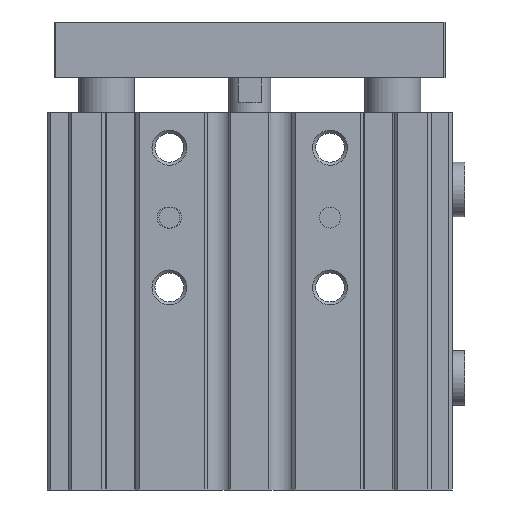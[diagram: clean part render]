
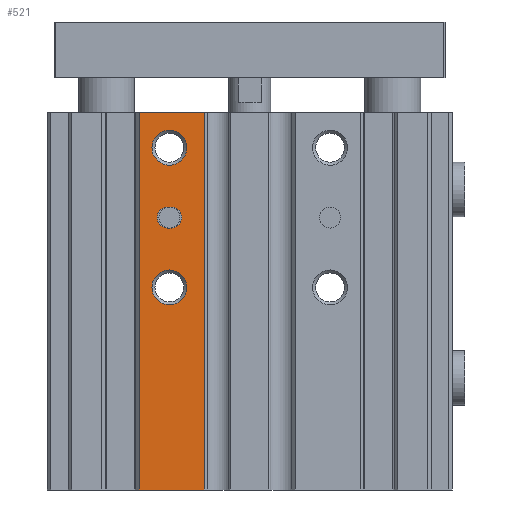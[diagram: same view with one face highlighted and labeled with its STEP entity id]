
A CAD part, left-side view. The second image highlights one B-rep face of the part: STEP entity #521.
In plain terms, the highlighted planar face has unit normal (-1, 0, 0).
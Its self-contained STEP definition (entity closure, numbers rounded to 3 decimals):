
#521 = ADVANCED_FACE( '', ( #1328, #1329, #1330, #1331 ), #1332, .T. );
#1328 = FACE_BOUND( '', #2538, .T. );
#1329 = FACE_BOUND( '', #2539, .T. );
#1330 = FACE_BOUND( '', #2540, .T. );
#1331 = FACE_OUTER_BOUND( '', #2541, .T. );
#1332 = PLANE( '', #2542 );
#2538 = EDGE_LOOP( '', ( #3900, #3901, #3902, #3903 ) );
#2539 = EDGE_LOOP( '', ( #3904 ) );
#2540 = EDGE_LOOP( '', ( #3905 ) );
#2541 = EDGE_LOOP( '', ( #3906, #3907, #3908, #3909 ) );
#2542 = AXIS2_PLACEMENT_3D( '', #3910, #3911, #3912 );
#3900 = ORIENTED_EDGE( '', *, *, #6736, .T. );
#3901 = ORIENTED_EDGE( '', *, *, #6737, .T. );
#3902 = ORIENTED_EDGE( '', *, *, #6678, .T. );
#3903 = ORIENTED_EDGE( '', *, *, #6738, .T. );
#3904 = ORIENTED_EDGE( '', *, *, #6739, .T. );
#3905 = ORIENTED_EDGE( '', *, *, #6686, .T. );
#3906 = ORIENTED_EDGE( '', *, *, #6740, .F. );
#3907 = ORIENTED_EDGE( '', *, *, #6741, .F. );
#3908 = ORIENTED_EDGE( '', *, *, #6742, .T. );
#3909 = ORIENTED_EDGE( '', *, *, #6743, .T. );
#3910 = CARTESIAN_POINT( '', ( -13., 15.8, -54. ) );
#3911 = DIRECTION( '', ( -1., 0., 0. ) );
#3912 = DIRECTION( '', ( 0., 0., 1. ) );
#6678 = EDGE_CURVE( '', #7895, #7896, #7897, .T. );
#6686 = EDGE_CURVE( '', #7908, #7908, #7909, .T. );
#6736 = EDGE_CURVE( '', #7992, #7993, #7994, .T. );
#6737 = EDGE_CURVE( '', #7993, #7895, #7995, .T. );
#6738 = EDGE_CURVE( '', #7896, #7992, #7996, .T. );
#6739 = EDGE_CURVE( '', #7997, #7997, #7998, .T. );
#6740 = EDGE_CURVE( '', #7999, #8000, #8001, .T. );
#6741 = EDGE_CURVE( '', #8002, #7999, #8003, .T. );
#6742 = EDGE_CURVE( '', #8002, #8004, #8005, .T. );
#6743 = EDGE_CURVE( '', #8004, #8000, #8006, .T. );
#7895 = VERTEX_POINT( '', #9658 );
#7896 = VERTEX_POINT( '', #9659 );
#7897 = CIRCLE( '', #9660, 1.5 );
#7908 = VERTEX_POINT( '', #9673 );
#7909 = CIRCLE( '', #9674, 2.5 );
#7992 = VERTEX_POINT( '', #9781 );
#7993 = VERTEX_POINT( '', #9782 );
#7994 = CIRCLE( '', #9783, 1.5 );
#7995 = LINE( '', #9784, #9785 );
#7996 = LINE( '', #9786, #9787 );
#7997 = VERTEX_POINT( '', #9788 );
#7998 = CIRCLE( '', #9789, 2.5 );
#7999 = VERTEX_POINT( '', #9790 );
#8000 = VERTEX_POINT( '', #9791 );
#8001 = LINE( '', #9792, #9793 );
#8002 = VERTEX_POINT( '', #9794 );
#8003 = LINE( '', #9795, #9796 );
#8004 = VERTEX_POINT( '', #9797 );
#8005 = LINE( '', #9798, #9799 );
#8006 = LINE( '', #9800, #9801 );
#9658 = CARTESIAN_POINT( '', ( -13., 11.25, -13.5 ) );
#9659 = CARTESIAN_POINT( '', ( -13., 11.25, -16.5 ) );
#9660 = AXIS2_PLACEMENT_3D( '', #11881, #11882, #11883 );
#9673 = CARTESIAN_POINT( '', ( -13., 11.5, -7.5 ) );
#9674 = AXIS2_PLACEMENT_3D( '', #11895, #11896, #11897 );
#9781 = CARTESIAN_POINT( '', ( -13., 11.75, -16.5 ) );
#9782 = CARTESIAN_POINT( '', ( -13., 11.75, -13.5 ) );
#9783 = AXIS2_PLACEMENT_3D( '', #11964, #11965, #11966 );
#9784 = CARTESIAN_POINT( '', ( -13., 11.75, -13.5 ) );
#9785 = VECTOR( '', #11967, 1000. );
#9786 = CARTESIAN_POINT( '', ( -13., 11.25, -16.5 ) );
#9787 = VECTOR( '', #11968, 1000. );
#9788 = CARTESIAN_POINT( '', ( -13., 11.5, -27.5 ) );
#9789 = AXIS2_PLACEMENT_3D( '', #11969, #11970, #11971 );
#9790 = CARTESIAN_POINT( '', ( -13., 15.8, 0. ) );
#9791 = CARTESIAN_POINT( '', ( -13., 6.5, 0. ) );
#9792 = CARTESIAN_POINT( '', ( -13., 15.8, 0. ) );
#9793 = VECTOR( '', #11972, 1000. );
#9794 = CARTESIAN_POINT( '', ( -13., 15.8, -54. ) );
#9795 = CARTESIAN_POINT( '', ( -13., 15.8, -54. ) );
#9796 = VECTOR( '', #11973, 1000. );
#9797 = CARTESIAN_POINT( '', ( -13., 6.5, -54. ) );
#9798 = CARTESIAN_POINT( '', ( -13., 15.8, -54. ) );
#9799 = VECTOR( '', #11974, 1000. );
#9800 = CARTESIAN_POINT( '', ( -13., 6.5, -54. ) );
#9801 = VECTOR( '', #11975, 1000. );
#11881 = CARTESIAN_POINT( '', ( -13., 11.25, -15. ) );
#11882 = DIRECTION( '', ( 1., 0., 0. ) );
#11883 = DIRECTION( '', ( 0., 0., -1. ) );
#11895 = CARTESIAN_POINT( '', ( -13., 11.5, -5. ) );
#11896 = DIRECTION( '', ( 1., 0., 0. ) );
#11897 = DIRECTION( '', ( 0., 0., -1. ) );
#11964 = CARTESIAN_POINT( '', ( -13., 11.75, -15. ) );
#11965 = DIRECTION( '', ( 1., 0., 0. ) );
#11966 = DIRECTION( '', ( 0., 0., -1. ) );
#11967 = DIRECTION( '', ( 0., -1., 0. ) );
#11968 = DIRECTION( '', ( 0., 1., 0. ) );
#11969 = CARTESIAN_POINT( '', ( -13., 11.5, -25. ) );
#11970 = DIRECTION( '', ( 1., 0., 0. ) );
#11971 = DIRECTION( '', ( 0., 0., -1. ) );
#11972 = DIRECTION( '', ( 0., -1., 0. ) );
#11973 = DIRECTION( '', ( 0., 0., 1. ) );
#11974 = DIRECTION( '', ( 0., -1., 0. ) );
#11975 = DIRECTION( '', ( 0., 0., 1. ) );
